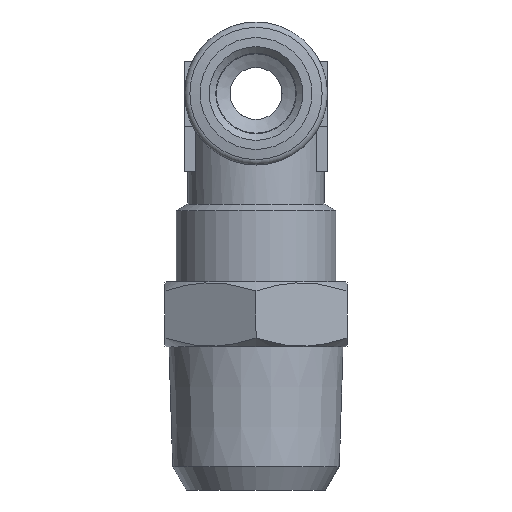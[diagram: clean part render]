
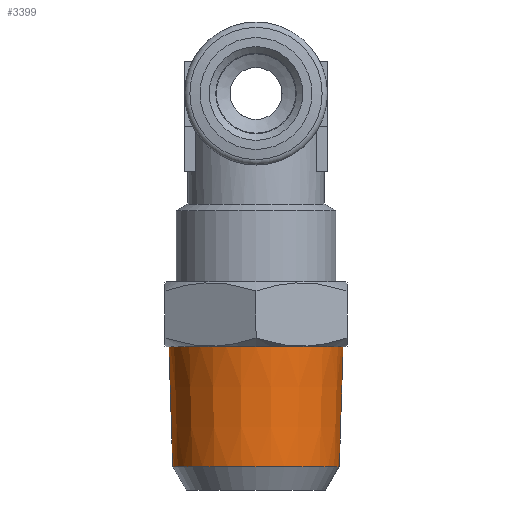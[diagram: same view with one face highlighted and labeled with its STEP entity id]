
A CAD part, left-side view. The second image highlights one B-rep face of the part: STEP entity #3399.
In plain terms, the highlighted conical face has half-angle 1.79 degrees and reference radius 6.694 mm.
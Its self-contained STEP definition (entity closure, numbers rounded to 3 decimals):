
#1728=ORIENTED_EDGE('',*,*,#2222,.F.);
#1729=ORIENTED_EDGE('',*,*,#2221,.F.);
#2014=CIRCLE('',#3174,6.694);
#2015=CIRCLE('',#3176,6.407);
#2100=VERTEX_POINT('',#3519);
#2101=VERTEX_POINT('',#3522);
#2221=EDGE_CURVE('',#2100,#2100,#2014,.T.);
#2222=EDGE_CURVE('',#2101,#2101,#2015,.T.);
#2365=EDGE_LOOP('',(#1728));
#2366=EDGE_LOOP('',(#1729));
#2541=FACE_BOUND('',#2365,.T.);
#2542=FACE_BOUND('',#2366,.T.);
#2731=DIRECTION('',(0.,1.,0.));
#2732=DIRECTION('',(0.,0.,-6.694));
#2733=DIRECTION('',(0.,1.,0.));
#2734=DIRECTION('',(0.,0.,1.));
#2735=DIRECTION('',(0.,-1.,0.));
#2736=DIRECTION('',(0.,0.,6.407));
#3174=AXIS2_PLACEMENT_3D('',#3520,#2731,#2732);
#3175=AXIS2_PLACEMENT_3D('',#3521,#2733,#2734);
#3176=AXIS2_PLACEMENT_3D('',#3523,#2735,#2736);
#3368=CONICAL_SURFACE('',#3175,6.694,1.79);
#3399=ADVANCED_FACE('',(#2541,#2542),#3368,.T.);
#3519=CARTESIAN_POINT('',(19.926,20.044,-6.694));
#3520=CARTESIAN_POINT('',(19.926,20.044,0.));
#3521=CARTESIAN_POINT('',(19.926,20.044,0.));
#3522=CARTESIAN_POINT('',(19.926,10.844,6.407));
#3523=CARTESIAN_POINT('',(19.926,10.844,0.));
